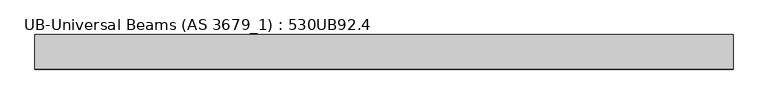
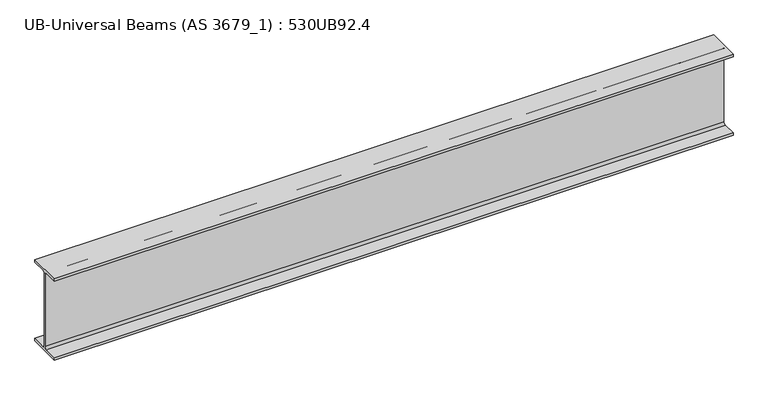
"""IFC4 building model written with IfcOpenShell, lengths in millimetres: beam geometry, UB-Universal Beams (AS 3679_1) : 530UB92.4."""

from ifc_helpers import new_model, si_unit, point, frame, frame_2d, origin, place, context, project, spatial, polyline, circle_curve, trimmed, segment, composite_curve, outline, extrude, source, transform, mapped, element, save


def ub_universal_beams_as_3679_1_530ub92_4_b1e17459(model_context):
    return source(origin(), model_context, "Body", "SweptSolid", [
        extrude(outline(composite_curve([segment(polyline([(104.5, -250.9), (104.5, -266.5), (-104.5, -266.5), (-104.5, -250.9), (-19.1, -250.9)]), True, "CONTINUOUS"), segment(trimmed(circle_curve(frame_2d((-19.1, -236.9)), 14.0), [point((-19.1, -250.9))], [point((-5.1, -236.9))], True, "CARTESIAN"), True, "CONTINUOUS"), segment(polyline([(-5.1, -236.9), (-5.1, 236.9)]), True, "CONTINUOUS"), segment(trimmed(circle_curve(frame_2d((-19.1, 236.9)), 14.0), [point((-5.1, 236.9))], [point((-19.1, 250.9))], True, "CARTESIAN"), True, "CONTINUOUS"), segment(polyline([(-19.1, 250.9), (-104.5, 250.9), (-104.5, 266.5), (104.5, 266.5), (104.5, 250.9), (19.1, 250.9)]), True, "CONTINUOUS"), segment(trimmed(circle_curve(frame_2d((19.1, 236.9)), 14.0), [point((19.1, 250.9))], [point((5.1, 236.9))], True, "CARTESIAN"), True, "CONTINUOUS"), segment(polyline([(5.1, 236.9), (5.1, -236.9)]), True, "CONTINUOUS"), segment(trimmed(circle_curve(frame_2d((19.1, -236.9)), 14.0), [point((5.1, -236.9))], [point((19.1, -250.9))], True, "CARTESIAN"), True, "CONTINUOUS"), segment(polyline([(19.1, -250.9), (104.5, -250.9)]), True, "CONTINUOUS")], self_intersect=False)), frame((-2147.2, 0.0, 0.0), z_axis=(1.0, 0.0, 0.0), x_axis=(0.0, 1.0, 0.0)), (0.0, 0.0, 1.0), 4219.8),
    ])


if __name__ == "__main__":
    model = new_model("IFC4")
    model_context = context("Model", 3, world=origin())
    ifc_project = project(units=[si_unit("LENGTHUNIT", "METRE", prefix="MILLI")], contexts=[model_context])
    site = spatial("IfcSite", under=ifc_project)
    building = spatial("IfcBuilding", under=site)
    placement = place(None, origin())
    ub_universal_beams_as_3679_1_530ub92_4_shape = ub_universal_beams_as_3679_1_530ub92_4_b1e17459(model_context)
    element("IfcBeam", 1, ObjectType="UB-Universal Beams (AS 3679_1) : 530UB92.4", at=placement, inside=building, context=model_context, shape_type="MappedRepresentation", body=[
        mapped(ub_universal_beams_as_3679_1_530ub92_4_shape, transform((0.0, 0.0, 0.0), x_axis=(1.0, 0.0, 0.0), y_axis=(0.0, 1.0, 0.0), z_axis=(0.0, 0.0, 1.0))),
    ])
    save(model, "model.ifc")
